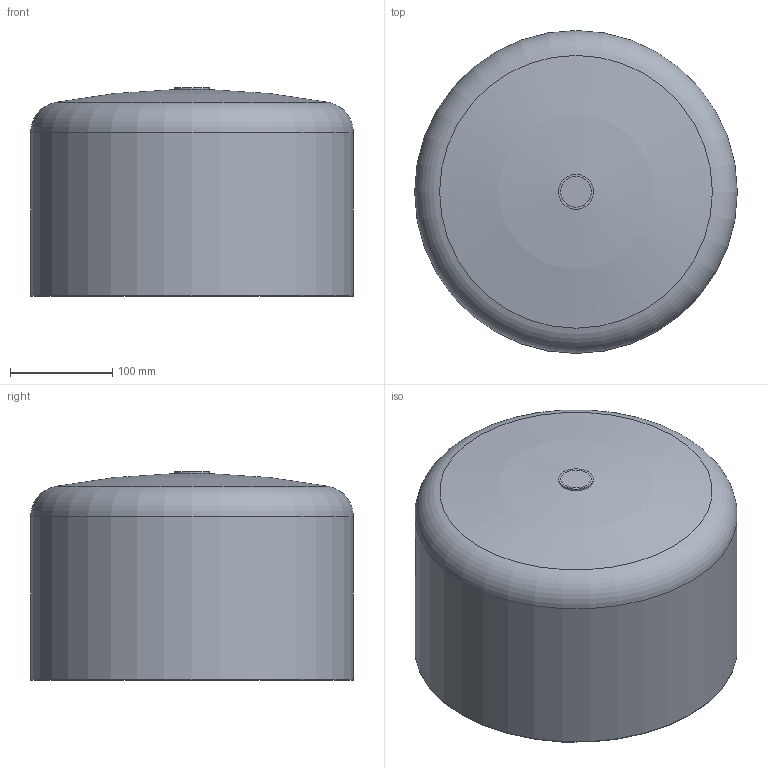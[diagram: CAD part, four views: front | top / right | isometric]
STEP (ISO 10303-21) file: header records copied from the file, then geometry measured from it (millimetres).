
FILE_DESCRIPTION(/* description */ ('Unknown'),/* implementation_level */ '2;1');
FILE_NAME(/* name */ 'CAP315H',/* time_stamp */ '2022-04-01T16:17:42+02:00',/* author */ ('Unknown'),/* organization */ ('Unknown'),/* preprocessor_version */ 'ST-DEVELOPER v18.1',/* originating_system */ 'Solid Edge',/* authorisation */ 'Unknown');
FILE_SCHEMA (('AUTOMOTIVE_DESIGN {1 0 10303 214 3 1 1}'));
Length unit declared in the file: millimetre
Products named in the file (1): CAP315H
Bounding box: 315 x 315 x 204 mm (x, y, z)
Volume: 8879936.6 mm3; surface area: 456852.7 mm2
Topology: 1 solids, 1 shells, 302 faces, 701 edges, 386 vertices
Faces by surface type: bspline 160, plane 51, cylinder 50, torus 19, sphere 18, cone 4
Full cylindrical faces by diameter (mm): 228.8 x1, 315 x1
Entity records: 11189 total; most frequent: CARTESIAN_POINT 5478, ORIENTED_EDGE 1336, DIRECTION 998, EDGE_CURVE 668, AXIS2_PLACEMENT_3D 443, VERTEX_POINT 380, EDGE_LOOP 314, FACE_BOUND 314
